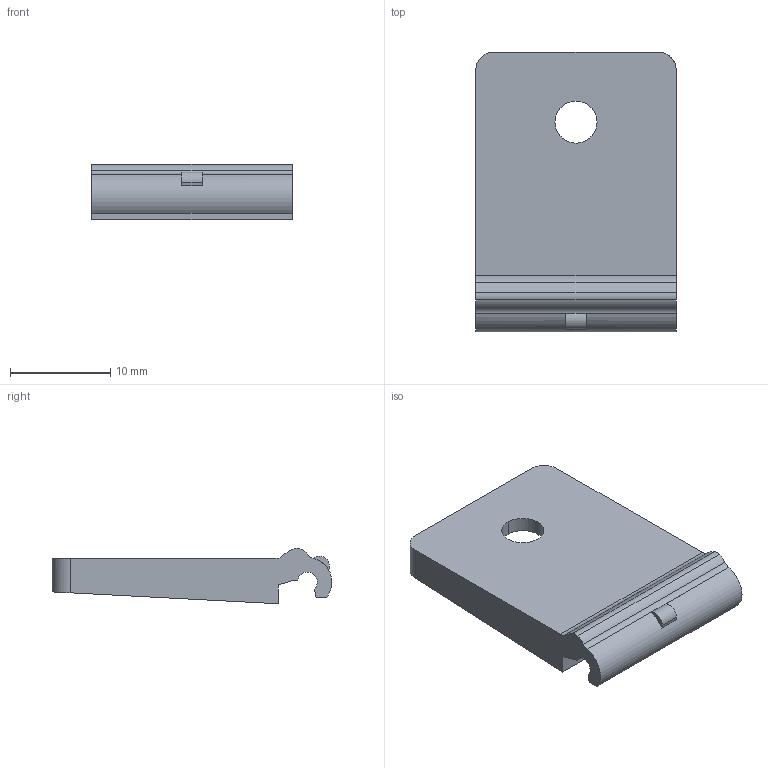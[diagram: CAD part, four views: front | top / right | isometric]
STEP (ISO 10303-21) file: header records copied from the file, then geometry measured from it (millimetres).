
FILE_DESCRIPTION (( 'STEP AP203' ), '1' );
FILE_NAME ('KU-Modell_Front-Bodenverbinder_A_Innenblende-F8.step', '2018-08-17T04:47:40', ( '' ), ( '' ), 'SwSTEP 2.0', 'SolidWorks 2017', '' );
FILE_SCHEMA (( 'CONFIG_CONTROL_DESIGN' ));
Length unit declared in the file: millimetre
Products named in the file (1): KU-Modell_Front-Bodenverbinder_A_Innenblende-F8
Bounding box: 20 x 27.95 x 5.54 mm (x, y, z)
Volume: 1537 mm3; surface area: 1669.7 mm2
Topology: 1 solids, 1 shells, 32 faces, 85 edges, 56 vertices
Faces by surface type: plane 17, cylinder 15
Entity records: 1084 total; most frequent: CARTESIAN_POINT 180, DIRECTION 179, ORIENTED_EDGE 170, EDGE_CURVE 85, AXIS2_PLACEMENT_3D 63, VERTEX_POINT 56, LINE 53, VECTOR 53
